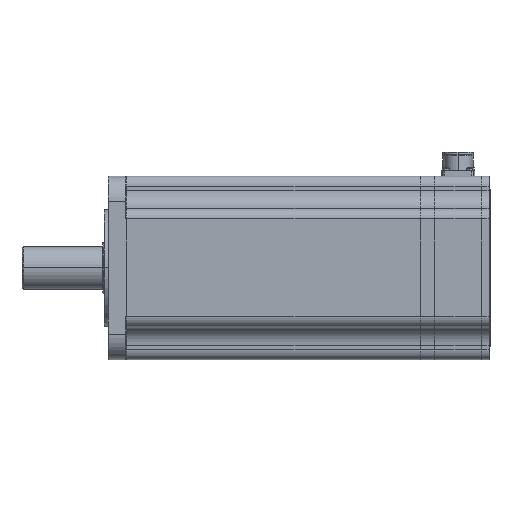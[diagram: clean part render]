
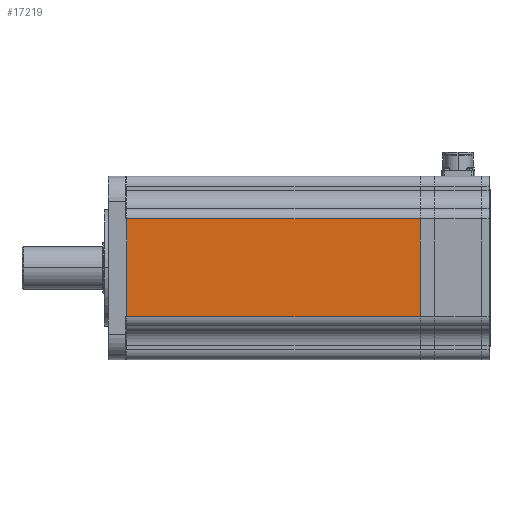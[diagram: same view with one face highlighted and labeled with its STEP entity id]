
A CAD part, top view. The second image highlights one B-rep face of the part: STEP entity #17219.
In plain terms, the highlighted planar face has unit normal (0, 0, 1).
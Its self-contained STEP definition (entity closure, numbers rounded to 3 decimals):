
#3683 = VECTOR ( 'NONE', #11379, 1000. ) ;
#10500 = ORIENTED_EDGE ( 'NONE', *, *, #40563, .T. ) ;
#11379 = DIRECTION ( 'NONE',  ( -1., 0., 0. ) ) ;
#11700 = CARTESIAN_POINT ( 'NONE',  ( 0., -48., 90. ) ) ;
#12440 = PLANE ( 'NONE',  #54889 ) ;
#13002 = CARTESIAN_POINT ( 'NONE',  ( 288., -48., 90. ) ) ;
#13655 = VERTEX_POINT ( 'NONE', #47007 ) ;
#14113 = EDGE_CURVE ( 'NONE', #23444, #53288, #36612, .T. ) ;
#15107 = CARTESIAN_POINT ( 'NONE',  ( 0., -48., 90. ) ) ;
#15292 = CARTESIAN_POINT ( 'NONE',  ( 288., 48., 90. ) ) ;
#15672 = CARTESIAN_POINT ( 'NONE',  ( 288., 48., 90. ) ) ;
#16238 = EDGE_LOOP ( 'NONE', ( #26745, #45916, #49258, #10500 ) ) ;
#16871 = DIRECTION ( 'NONE',  ( 0., -1., 0. ) ) ;
#16925 = DIRECTION ( 'NONE',  ( 0., 0., -1. ) ) ;
#17219 = ADVANCED_FACE ( 'NONE', ( #40755 ), #12440, .F. ) ;
#17592 = LINE ( 'NONE', #51901, #51702 ) ;
#17972 = CARTESIAN_POINT ( 'NONE',  ( 288., -48., 90. ) ) ;
#21035 = CARTESIAN_POINT ( 'NONE',  ( 288., -48., 90. ) ) ;
#23444 = VERTEX_POINT ( 'NONE', #13002 ) ;
#26745 = ORIENTED_EDGE ( 'NONE', *, *, #54019, .T. ) ;
#27761 = VERTEX_POINT ( 'NONE', #15292 ) ;
#29856 = DIRECTION ( 'NONE',  ( 0., -1., 0. ) ) ;
#36612 = LINE ( 'NONE', #17972, #51189 ) ;
#40563 = EDGE_CURVE ( 'NONE', #27761, #13655, #44011, .T. ) ;
#40755 = FACE_OUTER_BOUND ( 'NONE', #16238, .T. ) ;
#43650 = VECTOR ( 'NONE', #29856, 1000. ) ;
#44011 = LINE ( 'NONE', #15672, #3683 ) ;
#45916 = ORIENTED_EDGE ( 'NONE', *, *, #14113, .F. ) ;
#47007 = CARTESIAN_POINT ( 'NONE',  ( 0., 48., 90. ) ) ;
#48569 = EDGE_CURVE ( 'NONE', #27761, #23444, #17592, .T. ) ;
#49258 = ORIENTED_EDGE ( 'NONE', *, *, #48569, .F. ) ;
#51189 = VECTOR ( 'NONE', #53596, 1000. ) ;
#51702 = VECTOR ( 'NONE', #16871, 1000. ) ;
#51901 = CARTESIAN_POINT ( 'NONE',  ( 288., -48., 90. ) ) ;
#51925 = LINE ( 'NONE', #11700, #43650 ) ;
#52150 = DIRECTION ( 'NONE',  ( -1., 0., 0. ) ) ;
#53288 = VERTEX_POINT ( 'NONE', #15107 ) ;
#53596 = DIRECTION ( 'NONE',  ( -1., 0., 0. ) ) ;
#54019 = EDGE_CURVE ( 'NONE', #13655, #53288, #51925, .T. ) ;
#54889 = AXIS2_PLACEMENT_3D ( 'NONE', #21035, #16925, #52150 ) ;
